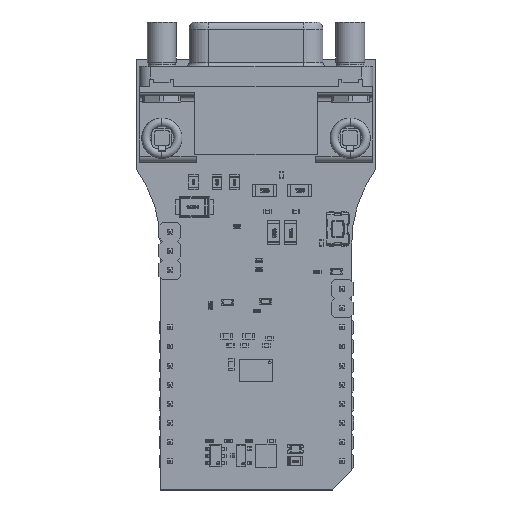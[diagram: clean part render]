
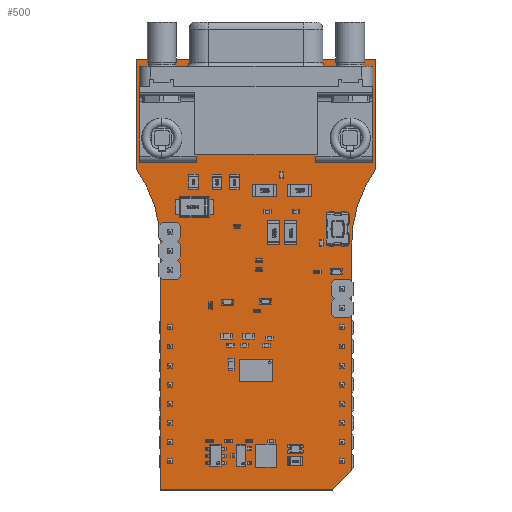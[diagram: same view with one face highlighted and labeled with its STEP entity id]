
A CAD part, top view. The second image highlights one B-rep face of the part: STEP entity #500.
In plain terms, the highlighted planar face has unit normal (0, 0, 1).
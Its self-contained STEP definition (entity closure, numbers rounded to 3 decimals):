
#207 = VERTEX_POINT('',#208);
#208 = CARTESIAN_POINT('',(-1.27,28.575,0.));
#214 = EDGE_CURVE('',#207,#215,#217,.T.);
#215 = VERTEX_POINT('',#216);
#216 = CARTESIAN_POINT('',(-4.445,38.735,0.));
#217 = CIRCLE('',#218,16.826);
#218 = AXIS2_PLACEMENT_3D('',#219,#220,#221);
#219 = CARTESIAN_POINT('',(-18.093,28.894,0.));
#220 = DIRECTION('',(0.,0.,1.));
#221 = DIRECTION('',(1.,-0.019,0.));
#247 = EDGE_CURVE('',#215,#248,#250,.T.);
#248 = VERTEX_POINT('',#249);
#249 = CARTESIAN_POINT('',(-4.445,53.34,0.));
#250 = LINE('',#251,#252);
#251 = CARTESIAN_POINT('',(-4.445,38.735,0.));
#252 = VECTOR('',#253,1.);
#253 = DIRECTION('',(0.,1.,0.));
#278 = EDGE_CURVE('',#248,#279,#281,.T.);
#279 = VERTEX_POINT('',#280);
#280 = CARTESIAN_POINT('',(27.305,53.34,0.));
#281 = LINE('',#282,#283);
#282 = CARTESIAN_POINT('',(-4.445,53.34,0.));
#283 = VECTOR('',#284,1.);
#284 = DIRECTION('',(1.,0.,0.));
#309 = EDGE_CURVE('',#279,#310,#312,.T.);
#310 = VERTEX_POINT('',#311);
#311 = CARTESIAN_POINT('',(27.305,38.735,0.));
#312 = LINE('',#313,#314);
#313 = CARTESIAN_POINT('',(27.305,53.34,0.));
#314 = VECTOR('',#315,1.);
#315 = DIRECTION('',(0.,-1.,0.));
#340 = EDGE_CURVE('',#310,#341,#343,.T.);
#341 = VERTEX_POINT('',#342);
#342 = CARTESIAN_POINT('',(24.13,28.575,0.));
#343 = CIRCLE('',#344,16.826);
#344 = AXIS2_PLACEMENT_3D('',#345,#346,#347);
#345 = CARTESIAN_POINT('',(40.953,28.894,0.));
#346 = DIRECTION('',(0.,0.,1.));
#347 = DIRECTION('',(-0.811,0.585,0.));
#373 = EDGE_CURVE('',#341,#374,#376,.T.);
#374 = VERTEX_POINT('',#375);
#375 = CARTESIAN_POINT('',(24.13,-1.27,0.));
#376 = LINE('',#377,#378);
#377 = CARTESIAN_POINT('',(24.13,28.575,0.));
#378 = VECTOR('',#379,1.);
#379 = DIRECTION('',(0.,-1.,0.));
#404 = EDGE_CURVE('',#374,#405,#407,.T.);
#405 = VERTEX_POINT('',#406);
#406 = CARTESIAN_POINT('',(21.59,-3.81,0.));
#407 = LINE('',#408,#409);
#408 = CARTESIAN_POINT('',(24.13,-1.27,0.));
#409 = VECTOR('',#410,1.);
#410 = DIRECTION('',(-0.707,-0.707,0.));
#435 = EDGE_CURVE('',#405,#436,#438,.T.);
#436 = VERTEX_POINT('',#437);
#437 = CARTESIAN_POINT('',(-1.27,-3.81,0.));
#438 = LINE('',#439,#440);
#439 = CARTESIAN_POINT('',(21.59,-3.81,0.));
#440 = VECTOR('',#441,1.);
#441 = DIRECTION('',(-1.,0.,0.));
#466 = EDGE_CURVE('',#436,#207,#467,.T.);
#467 = LINE('',#468,#469);
#468 = CARTESIAN_POINT('',(-1.27,-3.81,0.));
#469 = VECTOR('',#470,1.);
#470 = DIRECTION('',(0.,1.,0.));
#500 = ADVANCED_FACE('',(#501),#512,.F.);
#501 = FACE_BOUND('',#502,.F.);
#502 = EDGE_LOOP('',(#503,#504,#505,#506,#507,#508,#509,#510,#511));
#503 = ORIENTED_EDGE('',*,*,#214,.T.);
#504 = ORIENTED_EDGE('',*,*,#247,.T.);
#505 = ORIENTED_EDGE('',*,*,#278,.T.);
#506 = ORIENTED_EDGE('',*,*,#309,.T.);
#507 = ORIENTED_EDGE('',*,*,#340,.T.);
#508 = ORIENTED_EDGE('',*,*,#373,.T.);
#509 = ORIENTED_EDGE('',*,*,#404,.T.);
#510 = ORIENTED_EDGE('',*,*,#435,.T.);
#511 = ORIENTED_EDGE('',*,*,#466,.T.);
#512 = PLANE('',#513);
#513 = AXIS2_PLACEMENT_3D('',#514,#515,#516);
#514 = CARTESIAN_POINT('',(-1.27,28.575,0.));
#515 = DIRECTION('',(0.,0.,-1.));
#516 = DIRECTION('',(-1.,0.,0.));
